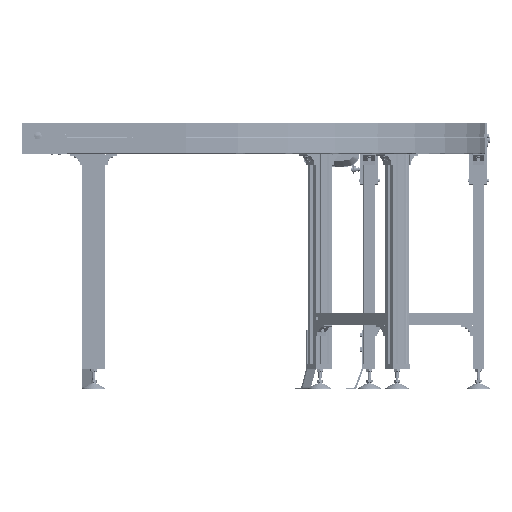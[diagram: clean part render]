
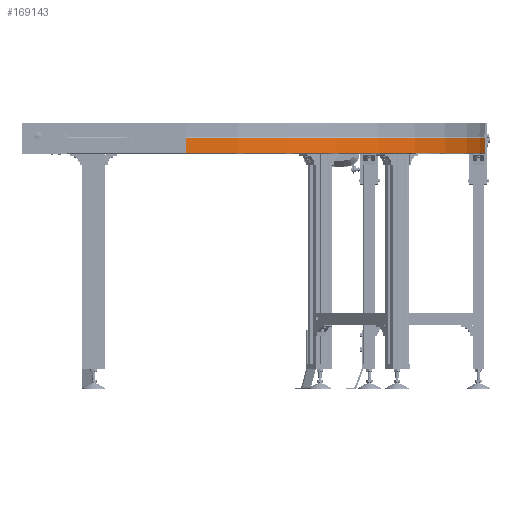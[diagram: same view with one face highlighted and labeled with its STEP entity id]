
A CAD part, front view. The second image highlights one B-rep face of the part: STEP entity #169143.
In plain terms, the highlighted cylindrical face has radius 1015 mm (diameter 2030 mm), a partial arc.
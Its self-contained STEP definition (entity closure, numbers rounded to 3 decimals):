
#15941=LINE('',#277355,#31829);
#15983=LINE('',#277502,#31871);
#15984=LINE('',#277505,#31872);
#16117=LINE('',#277988,#32005);
#31829=VECTOR('',#223327,4.45);
#31871=VECTOR('',#223491,4.45);
#31872=VECTOR('',#223494,49.);
#32005=VECTOR('',#224119,49.);
#41237=CYLINDRICAL_SURFACE('',#182899,1015.);
#50563=FACE_OUTER_BOUND('',#60534,.T.);
#60534=EDGE_LOOP('',(#144952,#144953,#144954,#144955,#144956,#144957));
#66921=CIRCLE('',#182897,1015.);
#66923=CIRCLE('',#182900,1015.);
#71728=VERTEX_POINT('',#244129);
#81091=VERTEX_POINT('',#277337);
#81095=VERTEX_POINT('',#277346);
#81137=VERTEX_POINT('',#277484);
#81141=VERTEX_POINT('',#277504);
#81245=VERTEX_POINT('',#277983);
#102875=EDGE_CURVE('',#81095,#81091,#15941,.T.);
#102943=EDGE_CURVE('',#81137,#71728,#15983,.T.);
#102944=EDGE_CURVE('',#81141,#81137,#15984,.T.);
#103197=EDGE_CURVE('',#81245,#81141,#66921,.T.);
#103199=EDGE_CURVE('',#81091,#71728,#66923,.T.);
#103200=EDGE_CURVE('',#81245,#81095,#16117,.T.);
#144952=ORIENTED_EDGE('',*,*,#102944,.T.);
#144953=ORIENTED_EDGE('',*,*,#102943,.T.);
#144954=ORIENTED_EDGE('',*,*,#103199,.F.);
#144955=ORIENTED_EDGE('',*,*,#102875,.F.);
#144956=ORIENTED_EDGE('',*,*,#103200,.F.);
#144957=ORIENTED_EDGE('',*,*,#103197,.T.);
#169143=ADVANCED_FACE('',(#50563),#41237,.T.);
#182897=AXIS2_PLACEMENT_3D('',#277984,#224111,#224112);
#182899=AXIS2_PLACEMENT_3D('',#277986,#224115,#224116);
#182900=AXIS2_PLACEMENT_3D('',#277987,#224117,#224118);
#223327=DIRECTION('',(0.,0.,1.));
#223491=DIRECTION('',(0.,0.,1.));
#223494=DIRECTION('',(0.,0.,1.));
#224111=DIRECTION('center_axis',(0.,0.,
1.));
#224112=DIRECTION('ref_axis',(0.,-1.,0.));
#224115=DIRECTION('center_axis',(0.,0.,
1.));
#224116=DIRECTION('ref_axis',(0.,-1.,0.));
#224117=DIRECTION('center_axis',(0.,0.,
1.));
#224118=DIRECTION('ref_axis',(0.,-1.,0.));
#224119=DIRECTION('',(0.,0.,1.));
#244129=CARTESIAN_POINT('',(1571.,807.5,54.45));
#277337=CARTESIAN_POINT('',(556.,-207.5,54.45));
#277346=CARTESIAN_POINT('',(556.,-207.5,50.));
#277355=CARTESIAN_POINT('',(556.,-207.5,1.));
#277484=CARTESIAN_POINT('',(1571.,807.5,50.));
#277502=CARTESIAN_POINT('',(1571.,807.5,1.));
#277504=CARTESIAN_POINT('',(1571.,807.5,1.));
#277505=CARTESIAN_POINT('',(1571.,807.5,1.));
#277983=CARTESIAN_POINT('',(556.,-207.5,1.));
#277984=CARTESIAN_POINT('Origin',(556.,807.5,1.));
#277986=CARTESIAN_POINT('Origin',(556.,807.5,27.725));
#277987=CARTESIAN_POINT('Origin',(556.,807.5,54.45));
#277988=CARTESIAN_POINT('',(556.,-207.5,1.));
